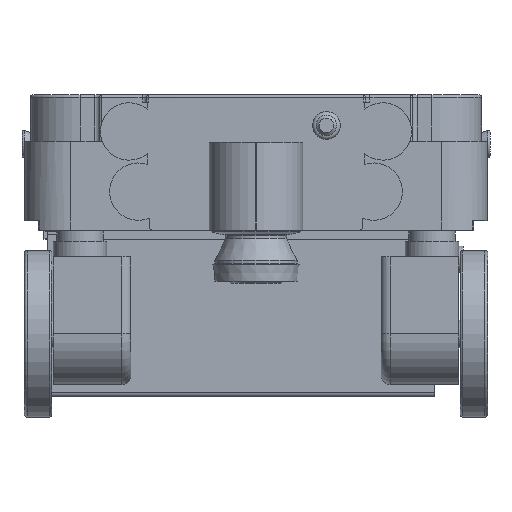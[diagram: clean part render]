
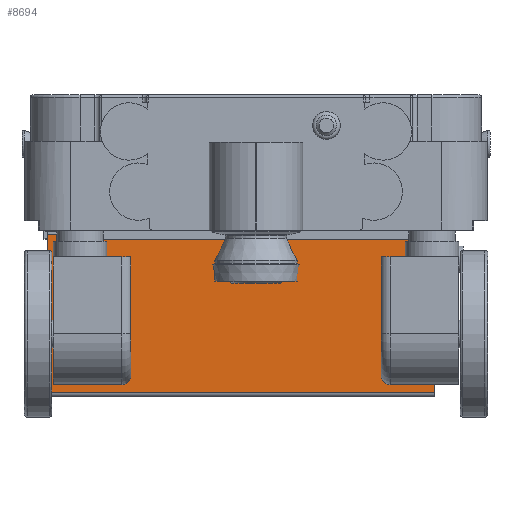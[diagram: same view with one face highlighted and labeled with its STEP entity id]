
A CAD part, front view. The second image highlights one B-rep face of the part: STEP entity #8694.
In plain terms, the highlighted planar face has unit normal (0, -1, 0).
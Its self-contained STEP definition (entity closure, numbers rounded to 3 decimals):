
#1092=FACE_OUTER_BOUND('',#1705,.T.);
#1705=EDGE_LOOP('',(#6797,#6798,#6799,#6800,#6801,#6802,#6803,#6804,#6805));
#2391=LINE('',#13919,#3172);
#2399=LINE('',#13933,#3180);
#2405=LINE('',#13945,#3186);
#2410=LINE('',#13955,#3191);
#2416=LINE('',#13971,#3197);
#2419=LINE('',#13977,#3200);
#2431=LINE('',#14001,#3212);
#2438=LINE('',#14017,#3219);
#2439=LINE('',#14019,#3220);
#3172=VECTOR('',#11057,10.);
#3180=VECTOR('',#11067,10.);
#3186=VECTOR('',#11079,10.);
#3191=VECTOR('',#11088,10.);
#3197=VECTOR('',#11100,10.);
#3200=VECTOR('',#11105,10.);
#3212=VECTOR('',#11127,10.);
#3219=VECTOR('',#11146,10.);
#3220=VECTOR('',#11149,10.);
#3983=VERTEX_POINT('',#13917);
#3984=VERTEX_POINT('',#13918);
#3989=VERTEX_POINT('',#13931);
#3992=VERTEX_POINT('',#13944);
#3995=VERTEX_POINT('',#13954);
#3997=VERTEX_POINT('',#13960);
#4002=VERTEX_POINT('',#13969);
#4004=VERTEX_POINT('',#13975);
#4011=VERTEX_POINT('',#14000);
#4965=EDGE_CURVE('',#3983,#3984,#2391,.T.);
#4973=EDGE_CURVE('',#3984,#3989,#2399,.T.);
#4979=EDGE_CURVE('',#3992,#3983,#2405,.T.);
#4984=EDGE_CURVE('',#3992,#3995,#2410,.T.);
#4992=EDGE_CURVE('',#3997,#4002,#2416,.T.);
#4995=EDGE_CURVE('',#4004,#3989,#2419,.T.);
#5007=EDGE_CURVE('',#3995,#4011,#2431,.T.);
#5016=EDGE_CURVE('',#4002,#4011,#2438,.T.);
#5017=EDGE_CURVE('',#3997,#4004,#2439,.T.);
#6797=ORIENTED_EDGE('',*,*,#4973,.T.);
#6798=ORIENTED_EDGE('',*,*,#4995,.F.);
#6799=ORIENTED_EDGE('',*,*,#5017,.F.);
#6800=ORIENTED_EDGE('',*,*,#4992,.T.);
#6801=ORIENTED_EDGE('',*,*,#5016,.T.);
#6802=ORIENTED_EDGE('',*,*,#5007,.F.);
#6803=ORIENTED_EDGE('',*,*,#4984,.F.);
#6804=ORIENTED_EDGE('',*,*,#4979,.T.);
#6805=ORIENTED_EDGE('',*,*,#4965,.T.);
#8205=PLANE('',#9365);
#8694=ADVANCED_FACE('',(#1092),#8205,.T.);
#9365=AXIS2_PLACEMENT_3D('',#14018,#11147,#11148);
#11057=DIRECTION('',(-1.,0.,0.));
#11067=DIRECTION('',(0.,0.,1.));
#11079=DIRECTION('',(0.,0.,-1.));
#11088=DIRECTION('',(1.,0.,0.));
#11100=DIRECTION('',(0.,0.,-1.));
#11105=DIRECTION('',(1.,0.,0.));
#11127=DIRECTION('',(0.,0.,-1.));
#11146=DIRECTION('',(1.,0.,0.));
#11147=DIRECTION('center_axis',(0.,-1.,0.));
#11148=DIRECTION('ref_axis',(0.,0.,-1.));
#11149=DIRECTION('',(0.,0.,1.));
#13917=CARTESIAN_POINT('',(180.,-129.,191.8));
#13918=CARTESIAN_POINT('',(-180.,-129.,191.8));
#13919=CARTESIAN_POINT('',(-112.5,-129.,191.8));
#13931=CARTESIAN_POINT('',(-180.,-129.,197.3));
#13933=CARTESIAN_POINT('',(-180.,-129.,198.425));
#13944=CARTESIAN_POINT('',(180.,-129.,197.3));
#13945=CARTESIAN_POINT('',(180.,-129.,198.425));
#13954=CARTESIAN_POINT('',(193.,-129.,197.3));
#13955=CARTESIAN_POINT('',(-225.,-129.,197.3));
#13960=CARTESIAN_POINT('',(-225.,-129.,191.8));
#13969=CARTESIAN_POINT('',(-225.,-129.,26.199));
#13971=CARTESIAN_POINT('',(-225.,-129.,197.3));
#13975=CARTESIAN_POINT('',(-225.,-129.,197.3));
#13977=CARTESIAN_POINT('',(-225.,-129.,197.3));
#14000=CARTESIAN_POINT('',(193.,-129.,26.199));
#14001=CARTESIAN_POINT('',(193.,-129.,197.3));
#14017=CARTESIAN_POINT('',(-225.,-129.,26.199));
#14018=CARTESIAN_POINT('Origin',(-225.,-129.,197.3));
#14019=CARTESIAN_POINT('',(-225.,-129.,200.151));
